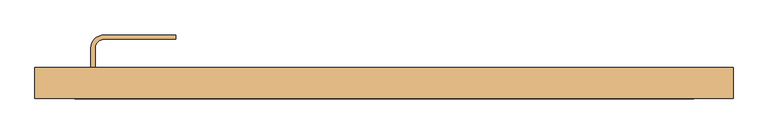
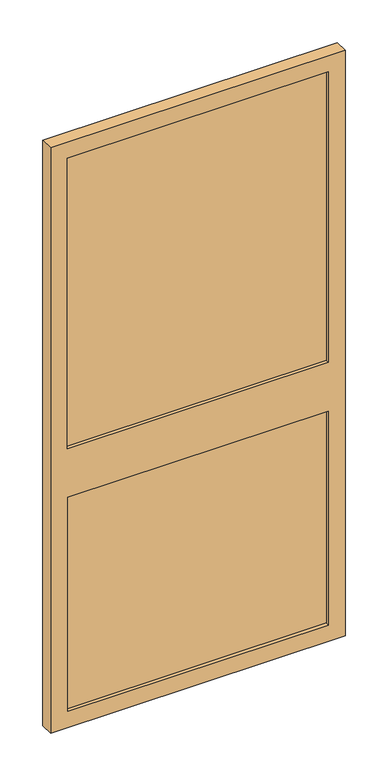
"""IFC4 building model written with IfcOpenShell, lengths in millimetres: door geometry, PUERTA_REJA : PUERTA_REJA."""

import ifcopenshell
import ifcopenshell.guid

model = None  # the IFC model being written
_history = None  # IfcOwnerHistory: only IFC2X3 demands one
_inside = {}  # id of a spatial element -> (the spatial element, [elements in it])
_under = {}  # id of a project, library or spatial element -> (it, [spatial elements below it])
_declared = {}  # id of a project -> (the project, [libraries it declares])
_typed = {}  # id of a type object -> (the type object, [elements of that type])
_made_of = {}  # id of a material, layer set ... -> (it, [elements and type objects made of it])


def new_model(schema):
    """Start an empty IFC model of exactly this schema.

    Asked for "IFC4X3", IfcOpenShell would pick the latest addendum, in which some entities
    have other attributes; the version numbers below select the first issue.
    IFC2X3 requires an IfcOwnerHistory on every rooted entity: one is made here for all.
    """
    global model, _history
    if schema == "IFC4X3":
        model = ifcopenshell.file(schema_version=(4, 3, 0, 0))
    else:
        model = ifcopenshell.file(schema=schema)
    _inside.clear()
    _under.clear()
    _declared.clear()
    _typed.clear()
    _made_of.clear()
    _history = None
    if model.schema == "IFC2X3":
        org = make("IfcOrganization", Name="unknown")
        user = make(
            "IfcPersonAndOrganization",
            ThePerson=make("IfcPerson", FamilyName="unknown"),
            TheOrganization=org,
        )
        app = make(
            "IfcApplication",
            ApplicationDeveloper=org,
            Version="unknown",
            ApplicationFullName="unknown",
            ApplicationIdentifier="unknown",
        )
        _history = make(
            "IfcOwnerHistory",
            OwningUser=user,
            OwningApplication=app,
            ChangeAction="ADDED",
            CreationDate=0,
        )
    return model


def make(cls, **values):
    """One entity of the class cls with the attributes given. An attribute that is None is left unset."""
    return model.create_entity(
        cls, **{name: value for name, value in values.items() if value is not None}
    )


def rooted(cls, **values):
    """An entity with a GlobalId (a new one), such as an element, a storey or a relation."""
    return make(cls, GlobalId=ifcopenshell.guid.new(), OwnerHistory=_history, **values)


def si_unit(unit_type, name, prefix=None):
    """IfcSIUnit, for example si_unit("LENGTHUNIT", "METRE", prefix="MILLI")."""
    return make("IfcSIUnit", UnitType=unit_type, Prefix=prefix, Name=name)


def assignment(units):
    """IfcUnitAssignment: the units of a project."""
    return None if units is None else make("IfcUnitAssignment", Units=units)


def point(xyz):
    """IfcCartesianPoint."""
    return None if xyz is None else make("IfcCartesianPoint", Coordinates=xyz)


def direction(xyz):
    """IfcDirection."""
    return None if xyz is None else make("IfcDirection", DirectionRatios=xyz)


def frame(location, z_axis=None, x_axis=None):
    """IfcAxis2Placement3D, a coordinate frame: its origin and axes. An axis left out is left unset."""
    return make(
        "IfcAxis2Placement3D",
        Location=point(location),
        Axis=direction(z_axis),
        RefDirection=direction(x_axis),
    )


def frame_2d(location, x_axis=None):
    """IfcAxis2Placement2D, a coordinate frame in the plane: its origin and x axis."""
    return make(
        "IfcAxis2Placement2D", Location=point(location), RefDirection=direction(x_axis)
    )


def origin():
    """The frame at (0, 0, 0) with its axes left unset."""
    return frame((0.0, 0.0, 0.0))


def place(relative_to, where):
    """IfcLocalPlacement: puts the frame where relative to a parent placement (None: the world)."""
    return make(
        "IfcLocalPlacement", PlacementRelTo=relative_to, RelativePlacement=where
    )


def context(
    kind, dimensions, precision=None, world=None, true_north=None, identifier=None
):
    """IfcGeometricRepresentationContext, for example the 3D "Model" context."""
    return make(
        "IfcGeometricRepresentationContext",
        ContextIdentifier=identifier,
        ContextType=kind,
        CoordinateSpaceDimension=dimensions,
        Precision=precision,
        WorldCoordinateSystem=world,
        TrueNorth=true_north,
    )


def project(units=None, contexts=None):
    """IfcProject with its units and contexts."""
    return rooted(
        "IfcProject",
        Name="project",
        RepresentationContexts=contexts,
        UnitsInContext=assignment(units),
    )


def spatial(cls, under=None, at=None, **own):
    """A site, building, storey or space (cls), placed at a placement, below another one or the project."""
    s = rooted(cls, ObjectPlacement=at, **own)
    if under is not None:
        _under.setdefault(under.id(), (under, []))[1].append(s)
    return s


def polyline(points):
    """IfcPolyline through the points."""
    return make("IfcPolyline", Points=[point(p) for p in points])


def circle_curve(where, radius):
    """IfcCircle in the frame where."""
    return make("IfcCircle", Position=where, Radius=radius)


def trimmed(basis, trim1, trim2, sense, master):
    """IfcTrimmedCurve: the piece of a basis curve between two trims."""
    return make(
        "IfcTrimmedCurve",
        BasisCurve=basis,
        Trim1=trim1,
        Trim2=trim2,
        SenseAgreement=sense,
        MasterRepresentation=master,
    )


def segment(curve, same_sense, transition):
    """IfcCompositeCurveSegment."""
    return make(
        "IfcCompositeCurveSegment",
        Transition=transition,
        SameSense=same_sense,
        ParentCurve=curve,
    )


def composite_curve(segments, self_intersect=None):
    """IfcCompositeCurve: segments joined end to end."""
    return make("IfcCompositeCurve", Segments=segments, SelfIntersect=self_intersect)


def outline(outer, holes=None, kind="AREA"):
    """IfcArbitraryClosedProfileDef: a profile drawn as a closed curve; with holes, ...WithVoids."""
    if holes is None:
        return make("IfcArbitraryClosedProfileDef", ProfileType=kind, OuterCurve=outer)
    return make(
        "IfcArbitraryProfileDefWithVoids",
        ProfileType=kind,
        OuterCurve=outer,
        InnerCurves=holes,
    )


def extrude(swept, where, along, depth):
    """IfcExtrudedAreaSolid: the profile swept, set in the frame where, extruded along a direction by depth."""
    return make(
        "IfcExtrudedAreaSolid",
        SweptArea=swept,
        Position=where,
        ExtrudedDirection=direction(along),
        Depth=depth,
    )


def shape(context_of_items, identifier, shape_type, items):
    """IfcShapeRepresentation: the items that make up one representation, for example the "Body"."""
    return make(
        "IfcShapeRepresentation",
        ContextOfItems=context_of_items,
        RepresentationIdentifier=identifier,
        RepresentationType=shape_type,
        Items=items,
    )


def source(mapping_origin, context_of_items, identifier, shape_type, items):
    """IfcRepresentationMap: a shape defined once, which mapped items show again and again."""
    return make(
        "IfcRepresentationMap",
        MappingOrigin=mapping_origin,
        MappedRepresentation=shape(context_of_items, identifier, shape_type, items),
    )


def transform(
    local_origin,
    x_axis=None,
    y_axis=None,
    z_axis=None,
    scale=None,
    scale2=None,
    scale3=None,
    uniform=True,
):
    """IfcCartesianTransformationOperator3D, or its non-uniform kind. x_axis, y_axis, z_axis: its Axis1, 2, 3."""
    if uniform:
        return make(
            "IfcCartesianTransformationOperator3D",
            Axis1=direction(x_axis),
            Axis2=direction(y_axis),
            LocalOrigin=point(local_origin),
            Scale=scale,
            Axis3=direction(z_axis),
        )
    return make(
        "IfcCartesianTransformationOperator3DnonUniform",
        Axis1=direction(x_axis),
        Axis2=direction(y_axis),
        LocalOrigin=point(local_origin),
        Scale=scale,
        Axis3=direction(z_axis),
        Scale2=scale2,
        Scale3=scale3,
    )


def mapped(mapping_source, mapping_target):
    """IfcMappedItem: shows the shape of a source again, moved by a transform."""
    return make(
        "IfcMappedItem", MappingSource=mapping_source, MappingTarget=mapping_target
    )


def made_of(thing, what):
    """Note that an element or type object is made of a material, layer set ...; save() writes the relation."""
    if what is not None:
        _made_of.setdefault(what.id(), (what, []))[1].append(thing)
    return thing


def element(
    cls,
    number,
    at=None,
    inside=None,
    cuts=None,
    type_object=None,
    material=None,
    context=None,
    identifier="Body",
    shape_type=None,
    held_by="IfcProductDefinitionShape",
    body=None,
    shapes=None,
    **own,
):
    """One element of the class cls, such as IfcWall. Its Tag is "e" and its number.

    at: its placement. inside: the storey or other place that contains it. cuts: it is an
    opening in that element (IfcRelVoidsElement). A single representation is given by context,
    identifier, shape_type and body (its items); several are given by shapes. held_by: the class
    of the entity that holds the representations. save() writes the other relations.
    """
    e = rooted(cls, Tag="e%d" % number, ObjectPlacement=at, **own)
    if body is not None:
        shapes = [shape(context, identifier, shape_type, body)]
    if shapes is not None:
        e.Representation = make(held_by, Representations=shapes)
    if inside is not None:
        _inside.setdefault(inside.id(), (inside, []))[1].append(e)
    if cuts is not None:
        rooted(
            "IfcRelVoidsElement", RelatingBuildingElement=cuts, RelatedOpeningElement=e
        )
    if type_object is not None:
        _typed.setdefault(type_object.id(), (type_object, []))[1].append(e)
    return made_of(e, material)


def aggregate(whole, parts):
    """IfcRelAggregates: a whole, such as a stair, and the parts it consists of."""
    return rooted("IfcRelAggregates", RelatingObject=whole, RelatedObjects=parts)


def save(model, path):
    """Write the relations noted so far, then the file.

    IfcRelAggregates (storeys below a building ...), IfcRelContainedInSpatialStructure (elements
    in a storey), IfcRelDefinesByType, IfcRelAssociatesMaterial and IfcRelDeclares: one each for
    every whole, place, type object, material and project.
    """
    for whole, parts in _under.values():
        aggregate(whole, parts)
    for where, things in _inside.values():
        rooted(
            "IfcRelContainedInSpatialStructure",
            RelatedElements=things,
            RelatingStructure=where,
        )
    for kind, things in _typed.values():
        rooted("IfcRelDefinesByType", RelatedObjects=things, RelatingType=kind)
    for what, things in _made_of.values():
        rooted("IfcRelAssociatesMaterial", RelatedObjects=things, RelatingMaterial=what)
    for by, libraries in _declared.values():
        rooted("IfcRelDeclares", RelatingContext=by, RelatedDefinitions=libraries)
    model.write(path)


def door_cf6ba6fa(model_context):
    return source(origin(), model_context, "Body", "SweptSolid", [
        extrude(outline(polyline([(443.5272247, 28.3), (-442.7334747, 28.3), (-442.7334747, 47.3), (443.5272247, 47.3), (443.5272247, 28.3)])), frame((0.0, 0.0, 1000.0), z_axis=(0.0, 0.0, 1.0), x_axis=(1.0, 0.0, 0.0)), (0.0, 0.0, 1.0), 1042.85),
        extrude(outline(polyline([(443.5272247, 28.3), (-441.1459747, 28.3), (-441.1459747, 47.3), (443.5272247, 47.3), (443.5272247, 28.3)])), frame((0.0, 0.0, 57.15), z_axis=(0.0, 0.0, 1.0), x_axis=(1.0, 0.0, 0.0)), (0.0, 0.0, 1.0), 767.85),
        extrude(outline(polyline([(2100.0, -499.8834747), (0.0, -499.8834747), (0.0, 499.8834747), (2100.0, 499.8834747), (2100.0, -499.8834747)]), holes=[polyline([(825.0, 443.5272247), (57.15, 443.5272247), (57.15, -441.1459747), (825.0, -441.1459747), (825.0, 443.5272247)]), polyline([(2042.85, -442.7334747), (2042.85, 443.5272247), (1000.0, 443.5272247), (1000.0, -442.7334747), (2042.85, -442.7334747)])]), frame((0.0, 15.6, 0.0), z_axis=(0.0, 1.0, 0.0), x_axis=(0.0, 0.0, 1.0)), (0.0, 0.0, 1.0), 44.4),
        extrude(outline(composite_curve([segment(trimmed(circle_curve(frame_2d((-400.7627659, 88.25)), 19.05), [point((-419.8127659, 88.25))], [point((-400.7627659, 107.3))], False, "CARTESIAN"), True, "CONTINUOUS"), segment(polyline([(-400.7627659, 107.3), (-297.9687165, 107.3), (-297.9687165, 100.95), (-400.7627659, 100.95)]), True, "CONTINUOUS"), segment(trimmed(circle_curve(frame_2d((-400.7627659, 88.25)), 12.7), [point((-400.7627659, 100.95))], [point((-413.4627659, 88.25))], True, "CARTESIAN"), True, "CONTINUOUS"), segment(polyline([(-413.4627659, 88.25), (-413.4627659, 60.0), (-419.8127659, 60.0), (-419.8127659, 88.25)]), True, "CONTINUOUS")], self_intersect=False)), frame((0.0, 0.0, 914.5324752), z_axis=(0.0, 0.0, 1.0), x_axis=(1.0, 0.0, 0.0)), (0.0, 0.0, 1.0), 21.9479028),
    ])


if __name__ == "__main__":
    model = new_model("IFC4")
    model_context = context("Model", 3, world=origin())
    ifc_project = project(units=[si_unit("LENGTHUNIT", "METRE", prefix="MILLI")], contexts=[model_context])
    site = spatial("IfcSite", under=ifc_project)
    building = spatial("IfcBuilding", under=site)
    placement = place(None, origin())
    door_shape = door_cf6ba6fa(model_context)
    element("IfcDoor", 1, ObjectType="PUERTA_REJA : PUERTA_REJA", at=placement, inside=building, context=model_context, shape_type="MappedRepresentation", body=[
        mapped(door_shape, transform((0.0, 0.0, 0.0), x_axis=(1.0, 0.0, 0.0), y_axis=(0.0, 1.0, 0.0), z_axis=(0.0, 0.0, 1.0))),
    ])
    save(model, "model.ifc")
